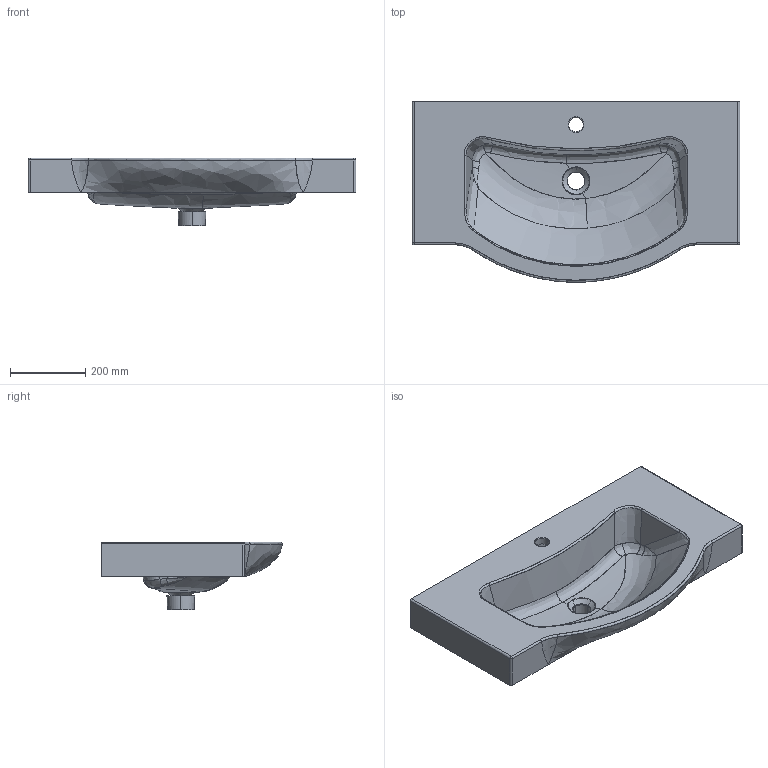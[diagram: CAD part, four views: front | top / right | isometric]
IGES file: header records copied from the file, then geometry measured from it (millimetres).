
Start section: START RECORD GO HERE.
Global section: file name: 3D BRENTA 87 art 8543.igs; native system: DASSAULT SYSTEMES CATIA V5 R19 - www.3ds.com; preprocessor: CATIA Version 5 Release 19 SP 5 ; author: Luca; organization: DESKTOP-V7SON24; date: 20220213.154541; units: millimetre
Bounding box: 870 x 479.48 x 180 mm (x, y, z)
Surface area: 816703.6 mm2 (no closed solid volume)
Topology: 0 solids, 0 shells, 79 faces, 364 edges, 358 vertices
Faces by surface type: bspline 50, revolution 20, plane 9
